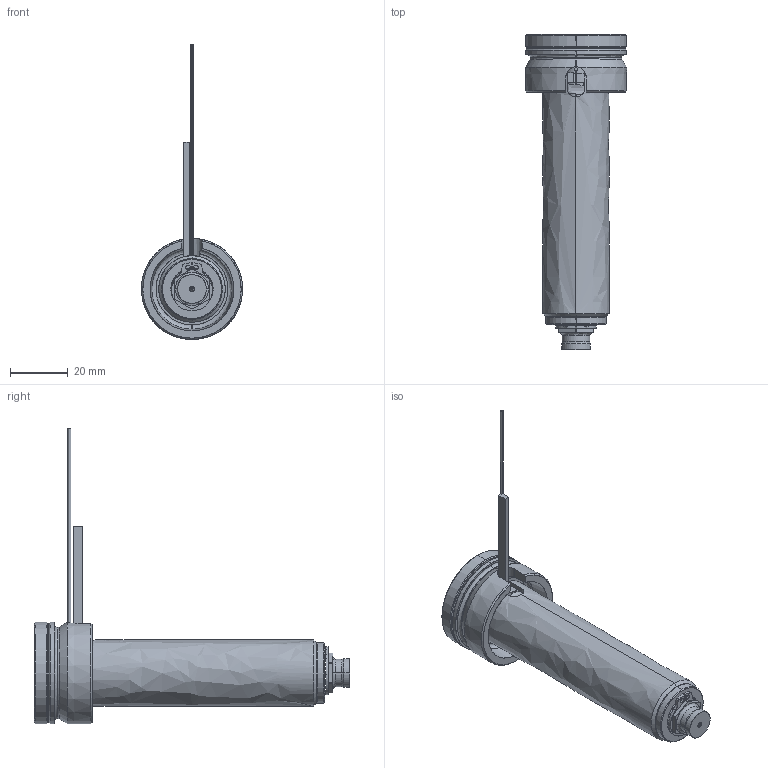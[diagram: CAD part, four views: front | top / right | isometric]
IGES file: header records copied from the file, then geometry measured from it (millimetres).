
Start section: SolidWorks IGES file using analytic representation for surfaces
Global section: file name: C:\Documents and Settings\ws-20\Desktop\TEM\UGEP3152-S-A-1 [Øf-0.70 P-0 ØC-7.0].IGS; native system: SolidWorks 2012; preprocessor: SolidWorks 2012; author: ws-20; date: 120404.082135; units: millimetre
Bounding box: 35 x 109 x 102.1 mm (x, y, z)
Surface area: 19130.9 mm2 (no closed solid volume)
Topology: 0 solids, 0 shells, 126 faces, 1956 edges, 1956 vertices
Faces by surface type: revolution 76, bspline 50
